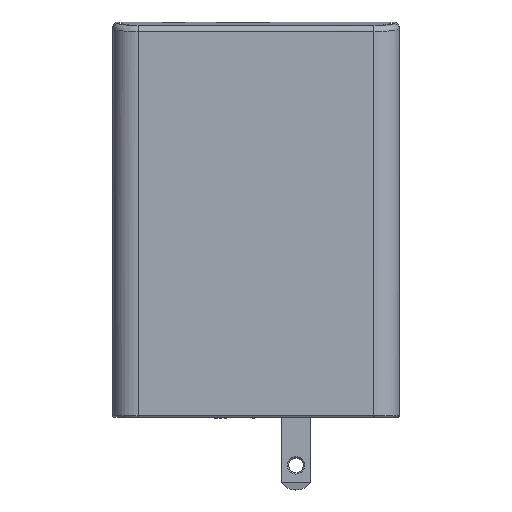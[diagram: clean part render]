
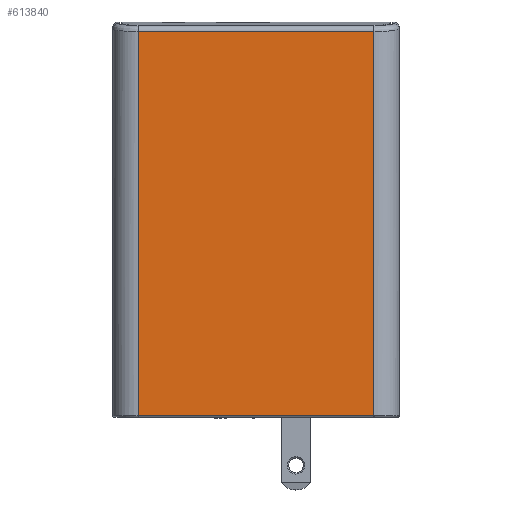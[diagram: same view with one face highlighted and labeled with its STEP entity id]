
A CAD part, top view. The second image highlights one B-rep face of the part: STEP entity #613840.
In plain terms, the highlighted planar face has unit normal (0, 0, 1).
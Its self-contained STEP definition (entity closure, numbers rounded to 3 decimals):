
#609180=CARTESIAN_POINT('',(26.285,153.683,
21.101));
#609190=VERTEX_POINT('',#609180);
#613350=CARTESIAN_POINT('',(-24.715,153.683,
21.101));
#613360=DIRECTION('',(1.,0.,0.));
#613370=VECTOR('',#613360,1.);
#613380=LINE('',#613350,#613370);
#613390=CARTESIAN_POINT('',(-24.715,153.683,
21.101));
#613400=VERTEX_POINT('',#613390);
#613410=EDGE_CURVE('',#613400,#609190,#613380,.T.);
#613540=CARTESIAN_POINT('',(0.785,114.,21.101));
#613550=DIRECTION('',(0.,0.,-1.));
#613560=DIRECTION('',(0.,1.,0.));
#613570=AXIS2_PLACEMENT_3D('',#613540,#613550,#613560);
#613580=PLANE('',#613570);
#613590=CARTESIAN_POINT('',(-24.715,70.55,21.101));
#613600=DIRECTION('',(0.,1.,0.));
#613610=VECTOR('',#613600,1.);
#613620=LINE('',#613590,#613610);
#613630=CARTESIAN_POINT('',(-24.715,70.55,21.101));
#613640=VERTEX_POINT('',#613630);
#613650=EDGE_CURVE('',#613640,#613400,#613620,.T.);
#613660=ORIENTED_EDGE('',*,*,#613650,.F.);
#613670=ORIENTED_EDGE('',*,*,#613410,.F.);
#613680=CARTESIAN_POINT('',(26.285,153.683,
21.101));
#613690=DIRECTION('',(0.,-1.,0.));
#613700=VECTOR('',#613690,1.);
#613710=LINE('',#613680,#613700);
#613720=CARTESIAN_POINT('',(26.285,70.55,21.101));
#613730=VERTEX_POINT('',#613720);
#613740=EDGE_CURVE('',#609190,#613730,#613710,.T.);
#613750=ORIENTED_EDGE('',*,*,#613740,.F.);
#613760=CARTESIAN_POINT('',(26.285,70.55,21.101));
#613770=DIRECTION('',(-1.,0.,0.));
#613780=VECTOR('',#613770,1.);
#613790=LINE('',#613760,#613780);
#613800=EDGE_CURVE('',#613730,#613640,#613790,.T.);
#613810=ORIENTED_EDGE('',*,*,#613800,.F.);
#613820=EDGE_LOOP('',(#613810,#613750,#613670,#613660));
#613830=FACE_OUTER_BOUND('',#613820,.T.);
#613840=ADVANCED_FACE('',(#613830),#613580,.F.);
